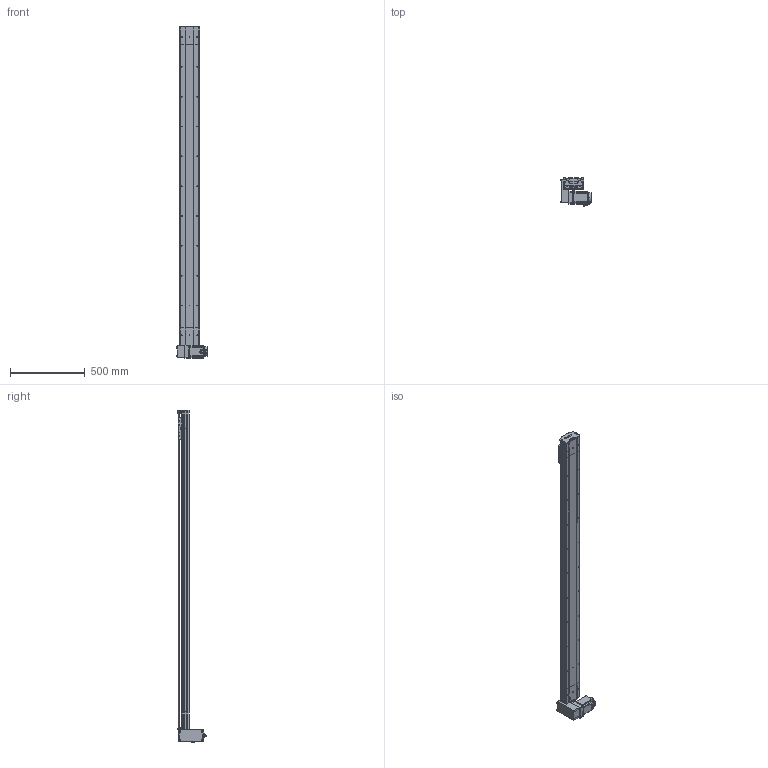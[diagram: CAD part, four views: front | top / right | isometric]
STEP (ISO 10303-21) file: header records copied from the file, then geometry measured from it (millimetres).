
FILE_DESCRIPTION (( 'STEP AP214' ), '1' );
FILE_NAME ('D14 TBH RU S1900.STEP', '2010-06-29T14:12:00', ( 'Conseil Régional Haute-Normandie' ), ( 'Conseil Régional Haute-Normandie' ), 'SwSTEP 2.0', 'SolidWorks 2010', '' );
FILE_SCHEMA (( 'AUTOMOTIVE_DESIGN' ));
Length unit declared in the file: millimetre
Products named in the file (39): vis M5 L5_Default; codeur 90BLDC100-640; Chariot D14; Rail + couroie D14 Course 1900 ; couvercle D14 course L1900_Default; Tail D14B_Default; corpl tail D14_Default; vis M5 L8 90°_Default; Plaque racord D14_Default; Cache_Default; Cache arbre_Default; renvoi RH_Default; guide D14; D14 couroie L1900_Default; D14 TBH RU S1900; corpl 1900_Default; avant 90BLDC100A-640; plaque de  bout tail D14_Default; vis M5 L12_Default; couvercle D14 head_Default; Conecteur2_Default; Vis M5 L16-2_Default; Moteur motionking 90BLDC100A-640; tete d''axe haut D14; Cvis M5 L70_Default; poulie tail_Default; Couroie_Default; D14 TB H RU_Default; corp head D14_Default; vis M5 L16_Default; corps 90BLDC100A-640; Conecteur_Default; chariot D14B_Default; couvercle D14_Default; Arbre+rail tail D14; plaque de  bout head D14 RU_Default; Arbre+rail head D14; couroie 2_Default; poulie head_Default
Assembly tree (68 placements, depth 4):
  D14 TBH RU S1900
    Tail D14B_Default
      vis M5 L8 90°_Default  x2
      vis M5 L12_Default  x4
      poulie tail_Default
      Arbre+rail tail D14
      Couroie_Default
      couvercle D14_Default
      vis M5 L16_Default  x2
      tete d''axe haut D14
      corpl tail D14_Default
      plaque de  bout tail D14_Default
    chariot D14B_Default
      vis M5 L12_Default  x4
      guide D14  x2
      Chariot D14
    D14 couroie L1900_Default
      corpl 1900_Default
      Rail + couroie D14 Course 1900 
      couvercle D14 course L1900_Default
    D14 TB H RU_Default
      Cache_Default  x2
      vis M5 L12_Default  x12
      Moteur motionking 90BLDC100A-640
        Conecteur_Default
        corps 90BLDC100A-640
        codeur 90BLDC100-640
        avant 90BLDC100A-640
        Conecteur2_Default
      Cvis M5 L70_Default  x4
      corp head D14_Default
      vis M5 L5_Default  x2
      Cache arbre_Default
      couroie 2_Default
      plaque de  bout head D14 RU_Default
      Plaque racord D14_Default
      couvercle D14 head_Default
      renvoi RH_Default
      Vis M5 L16-2_Default  x4
      Arbre+rail head D14
      poulie head_Default
Bounding box: 207.2 x 191.1 x 2225.75 mm (x, y, z)
Volume: 8822675.5 mm3; surface area: 3082049.6 mm2
Topology: 92 solids, 92 shells, 2677 faces, 6539 edges, 4218 vertices
Faces by surface type: plane 1601, cylinder 763, bspline 136, torus 89, cone 84, sphere 4
Entity records: 80576 total; most frequent: CARTESIAN_POINT 23773, ORIENTED_EDGE 9938, DIRECTION 9772, EDGE_CURVE 4969, VECTOR 3310, LINE 3310, VERTEX_POINT 3268, AXIS2_PLACEMENT_3D 3231
